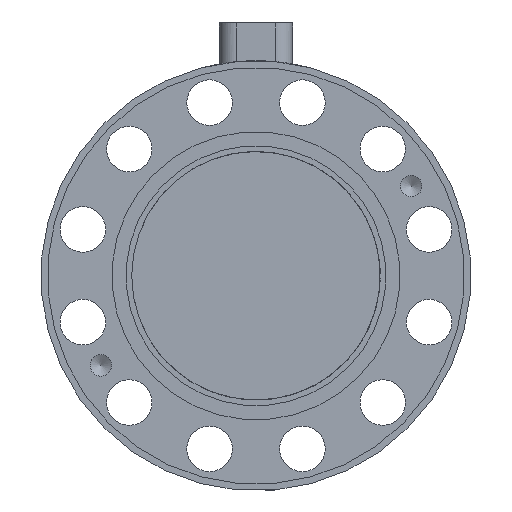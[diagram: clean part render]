
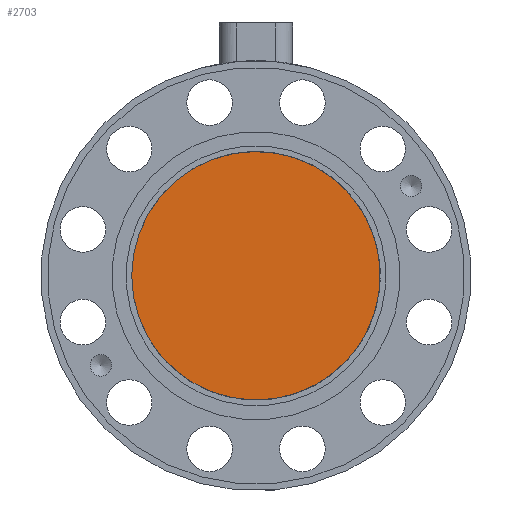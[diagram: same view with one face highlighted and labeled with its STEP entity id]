
A CAD part, front view. The second image highlights one B-rep face of the part: STEP entity #2703.
In plain terms, the highlighted planar face has unit normal (0, -1, 0).
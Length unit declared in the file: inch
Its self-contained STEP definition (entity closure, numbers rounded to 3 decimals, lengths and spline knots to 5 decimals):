
#366 = DIRECTION ( 'NONE',  ( -1., 0., 0. ) ) ;
#1091 = DIRECTION ( 'NONE',  ( 1., 0., 0. ) ) ;
#1138 = DIRECTION ( 'NONE',  ( 0., 1., 0. ) ) ;
#1151 = VERTEX_POINT ( 'NONE', #5416 ) ;
#1196 = PLANE ( 'NONE',  #8998 ) ;
#2239 = FACE_OUTER_BOUND ( 'NONE', #15875, .T. ) ;
#2694 = CARTESIAN_POINT ( 'NONE',  ( 0., -8.98012, 0. ) ) ;
#2703 = ADVANCED_FACE ( 'NONE', ( #2239 ), #1196, .F. ) ;
#4451 = ORIENTED_EDGE ( 'NONE', *, *, #7643, .T. ) ;
#5416 = CARTESIAN_POINT ( 'NONE',  ( -2.7305, -8.98012, 0. ) ) ;
#6881 = AXIS2_PLACEMENT_3D ( 'NONE', #15420, #7919, #366 ) ;
#7643 = EDGE_CURVE ( 'NONE', #1151, #1151, #13532, .T. ) ;
#7919 = DIRECTION ( 'NONE',  ( 0., -1., 0. ) ) ;
#8998 = AXIS2_PLACEMENT_3D ( 'NONE', #2694, #1138, #1091 ) ;
#13532 = CIRCLE ( 'NONE', #6881, 2.7305 ) ;
#15420 = CARTESIAN_POINT ( 'NONE',  ( 0., -8.98012, 0. ) ) ;
#15875 = EDGE_LOOP ( 'NONE', ( #4451 ) ) ;
